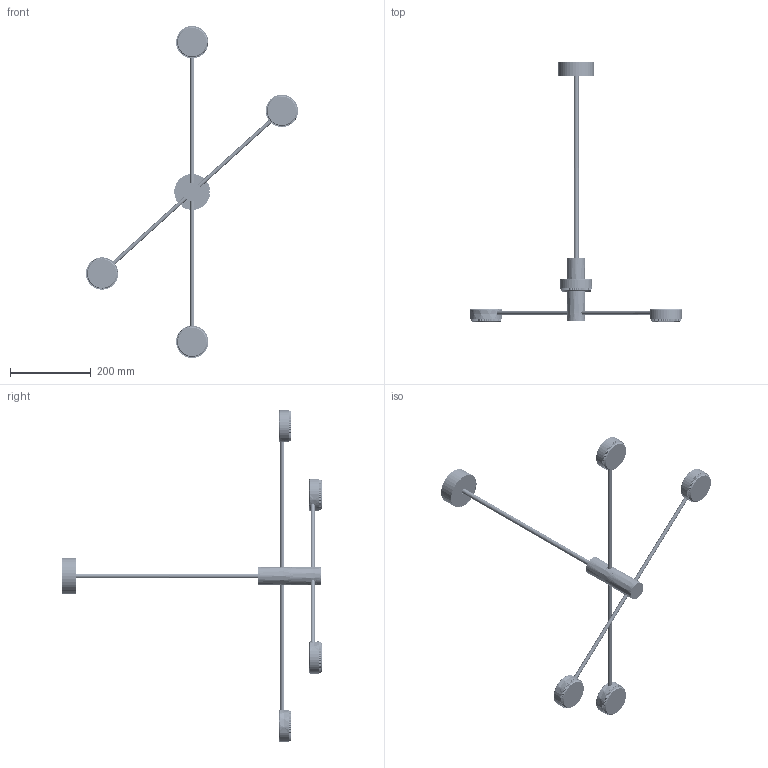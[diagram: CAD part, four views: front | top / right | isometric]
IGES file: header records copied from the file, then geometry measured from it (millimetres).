
Start section: SolidWorks IGES file using analytic representation for surfaces
Global section: file name: Z:\Modele 3D_WWW\_KOLEKCJE_WWW\ORBIT\ORBIT-IV-PLAFON-7941-7945\ORBIT-IV-PLAFON-7941-7945.IGS; native system: SolidWorks 2021; preprocessor: SolidWorks 2021; author: gabriela.tworek; date: 210831.130541; units: millimetre
Bounding box: 525.54 x 642.92 x 822.67 mm (x, y, z)
Surface area: 364535 mm2 (no closed solid volume)
Topology: 0 solids, 0 shells, 5444 faces, 46430 edges, 46394 vertices
Faces by surface type: bspline 3105, revolution 2339
